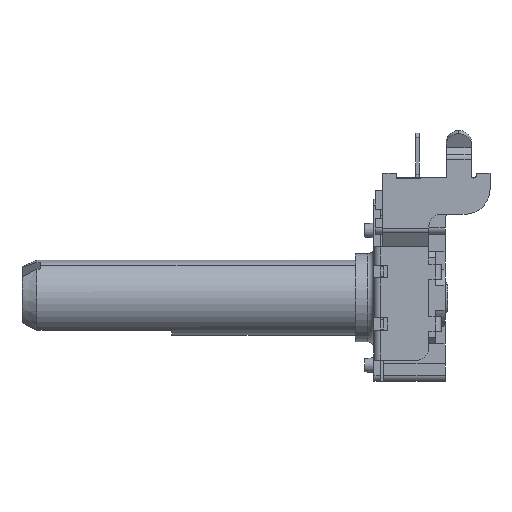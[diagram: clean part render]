
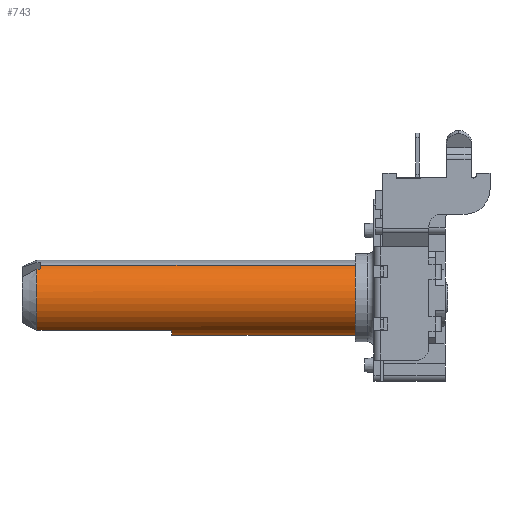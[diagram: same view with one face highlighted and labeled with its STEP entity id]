
A CAD part, left-side view. The second image highlights one B-rep face of the part: STEP entity #743.
In plain terms, the highlighted cylindrical face has radius 3 mm (diameter 6 mm), a partial arc.
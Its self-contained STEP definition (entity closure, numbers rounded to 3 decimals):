
#60 = CARTESIAN_POINT ( 'NONE',  ( 0., 30.1, -3. ) ) ;
#743 = ADVANCED_FACE ( 'NONE', ( #6601 ), #9239, .T. ) ;
#802 = CARTESIAN_POINT ( 'NONE',  ( 2.598, 19.3, 1.5 ) ) ;
#963 = CARTESIAN_POINT ( 'NONE',  ( 0., 19.3, 0. ) ) ;
#985 = AXIS2_PLACEMENT_3D ( 'NONE', #9061, #11308, #8820 ) ;
#1106 = LINE ( 'NONE', #60, #11903 ) ;
#1488 =( BOUNDED_CURVE ( )  B_SPLINE_CURVE ( 3, ( #12548, #12784, #13848, #3109 ),
 .UNSPECIFIED., .F., .F. ) 
 B_SPLINE_CURVE_WITH_KNOTS ( ( 4, 4 ),
 ( 4.528, 4.545 ),
 .UNSPECIFIED. ) 
 CURVE ( )  GEOMETRIC_REPRESENTATION_ITEM ( )  RATIONAL_B_SPLINE_CURVE ( ( 1., 1., 1., 1. ) ) 
 REPRESENTATION_ITEM ( '' )  );
#2515 = CIRCLE ( 'NONE', #985, 3. ) ;
#2521 = EDGE_CURVE ( 'NONE', #11411, #9774, #1106, .T. ) ;
#2555 = ORIENTED_EDGE ( 'NONE', *, *, #12348, .T. ) ;
#3047 = CIRCLE ( 'NONE', #9665, 3. ) ;
#3109 = CARTESIAN_POINT ( 'NONE',  ( 0.5, 29.8, -2.958 ) ) ;
#3196 = DIRECTION ( 'NONE',  ( 0., 0., 1. ) ) ;
#4292 = ORIENTED_EDGE ( 'NONE', *, *, #7986, .T. ) ;
#4320 = DIRECTION ( 'NONE',  ( 0., -1., 0. ) ) ;
#4329 = CARTESIAN_POINT ( 'NONE',  ( 0.55, 30.1, -2.949 ) ) ;
#4427 = CARTESIAN_POINT ( 'NONE',  ( 0., 19.3, 3. ) ) ;
#5272 = ORIENTED_EDGE ( 'NONE', *, *, #11931, .F. ) ;
#5318 = VECTOR ( 'NONE', #12358, 1000. ) ;
#5477 = DIRECTION ( 'NONE',  ( 0., -1., 0. ) ) ;
#6557 = AXIS2_PLACEMENT_3D ( 'NONE', #11630, #5477, #15168 ) ;
#6601 = FACE_OUTER_BOUND ( 'NONE', #12736, .T. ) ;
#6704 = VERTEX_POINT ( 'NONE', #8879 ) ;
#6872 = DIRECTION ( 'NONE',  ( 0., 1., 0. ) ) ;
#6971 = ORIENTED_EDGE ( 'NONE', *, *, #9688, .F. ) ;
#7687 = DIRECTION ( 'NONE',  ( 0., 1., 0. ) ) ;
#7986 = EDGE_CURVE ( 'NONE', #12062, #13004, #12874, .T. ) ;
#8098 = EDGE_CURVE ( 'NONE', #12062, #14268, #13842, .T. ) ;
#8269 = EDGE_CURVE ( 'NONE', #9029, #12620, #10506, .T. ) ;
#8283 = ORIENTED_EDGE ( 'NONE', *, *, #11403, .F. ) ;
#8774 = CARTESIAN_POINT ( 'NONE',  ( 0., 30.1, 0. ) ) ;
#8820 = DIRECTION ( 'NONE',  ( 0., 0., -1. ) ) ;
#8879 = CARTESIAN_POINT ( 'NONE',  ( 0.5, 29.8, -2.958 ) ) ;
#8937 = ORIENTED_EDGE ( 'NONE', *, *, #2521, .F. ) ;
#9029 = VERTEX_POINT ( 'NONE', #13377 ) ;
#9061 = CARTESIAN_POINT ( 'NONE',  ( 0., 29.8, 0. ) ) ;
#9239 = CYLINDRICAL_SURFACE ( 'NONE', #6557, 3. ) ;
#9478 = AXIS2_PLACEMENT_3D ( 'NONE', #963, #6872, #3196 ) ;
#9665 = AXIS2_PLACEMENT_3D ( 'NONE', #12487, #7687, #10244 ) ;
#9688 = EDGE_CURVE ( 'NONE', #12620, #6704, #1488, .T. ) ;
#9774 = VERTEX_POINT ( 'NONE', #14082 ) ;
#10238 = CARTESIAN_POINT ( 'NONE',  ( 0., 30.1, 3. ) ) ;
#10244 = DIRECTION ( 'NONE',  ( 0., 0., 1. ) ) ;
#10506 = CIRCLE ( 'NONE', #11290, 3. ) ;
#10735 = ORIENTED_EDGE ( 'NONE', *, *, #8098, .F. ) ;
#11016 = DIRECTION ( 'NONE',  ( 0., 0., 1. ) ) ;
#11072 = CARTESIAN_POINT ( 'NONE',  ( 0., 29.8, -3. ) ) ;
#11159 = CARTESIAN_POINT ( 'NONE',  ( 2.598, 19.3, 1.5 ) ) ;
#11290 = AXIS2_PLACEMENT_3D ( 'NONE', #8774, #14560, #11016 ) ;
#11308 = DIRECTION ( 'NONE',  ( 0., 1., 0. ) ) ;
#11403 = EDGE_CURVE ( 'NONE', #14268, #9029, #15815, .T. ) ;
#11411 = VERTEX_POINT ( 'NONE', #11072 ) ;
#11630 = CARTESIAN_POINT ( 'NONE',  ( 0., 30.1, 0. ) ) ;
#11903 = VECTOR ( 'NONE', #15595, 1000. ) ;
#11931 = EDGE_CURVE ( 'NONE', #6704, #11411, #2515, .T. ) ;
#12062 = VERTEX_POINT ( 'NONE', #4427 ) ;
#12348 = EDGE_CURVE ( 'NONE', #13004, #9774, #3047, .T. ) ;
#12358 = DIRECTION ( 'NONE',  ( 0., 1., 0. ) ) ;
#12487 = CARTESIAN_POINT ( 'NONE',  ( 0., 2.5, 0. ) ) ;
#12548 = CARTESIAN_POINT ( 'NONE',  ( 0.55, 30.1, -2.949 ) ) ;
#12620 = VERTEX_POINT ( 'NONE', #4329 ) ;
#12736 = EDGE_LOOP ( 'NONE', ( #10735, #4292, #2555, #8937, #5272, #6971, #15632, #8283 ) ) ;
#12784 = CARTESIAN_POINT ( 'NONE',  ( 0.533, 30., -2.952 ) ) ;
#12874 = LINE ( 'NONE', #10238, #13064 ) ;
#13004 = VERTEX_POINT ( 'NONE', #14298 ) ;
#13064 = VECTOR ( 'NONE', #4320, 1000. ) ;
#13377 = CARTESIAN_POINT ( 'NONE',  ( 2.598, 30.1, 1.5 ) ) ;
#13842 = CIRCLE ( 'NONE', #9478, 3. ) ;
#13848 = CARTESIAN_POINT ( 'NONE',  ( 0.517, 29.9, -2.955 ) ) ;
#14082 = CARTESIAN_POINT ( 'NONE',  ( 0., 2.5, -3. ) ) ;
#14268 = VERTEX_POINT ( 'NONE', #802 ) ;
#14298 = CARTESIAN_POINT ( 'NONE',  ( 0., 2.5, 3. ) ) ;
#14560 = DIRECTION ( 'NONE',  ( 0., 1., 0. ) ) ;
#15168 = DIRECTION ( 'NONE',  ( 0., 0., -1. ) ) ;
#15595 = DIRECTION ( 'NONE',  ( 0., -1., 0. ) ) ;
#15632 = ORIENTED_EDGE ( 'NONE', *, *, #8269, .F. ) ;
#15815 = LINE ( 'NONE', #11159, #5318 ) ;
